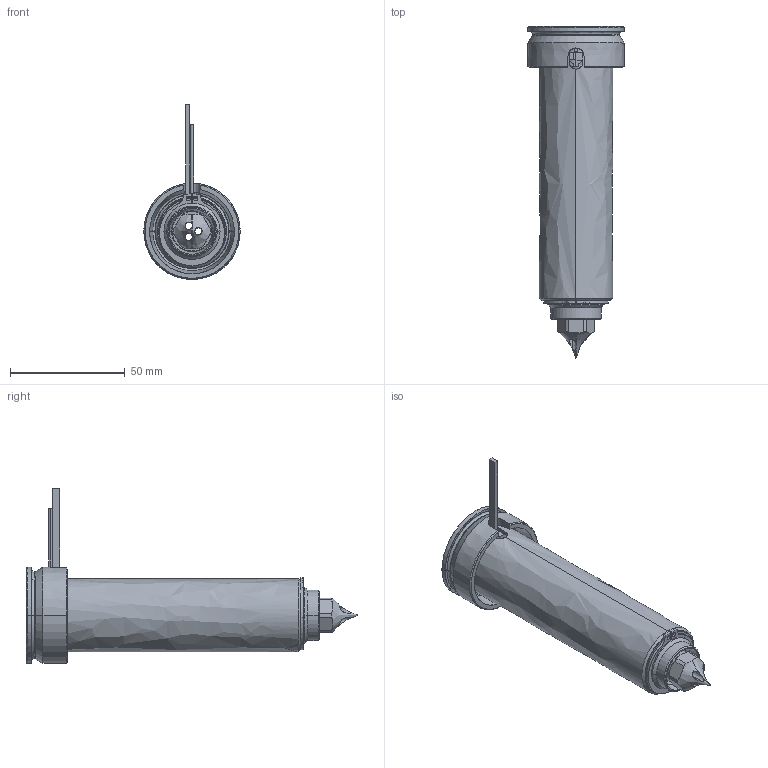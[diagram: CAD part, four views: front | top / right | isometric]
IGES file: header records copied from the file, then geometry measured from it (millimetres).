
Start section: SolidWorks IGES file using analytic representation for surfaces
Global section: file name: C:\Users\luca.EMPAD\Desktop\TEM\UGDL3614-M-A-1 [Øf=0.3 ØC=10].IGS; native system: SolidWorks 2012; preprocessor: SolidWorks 2012; author: luca; date: 120330.160432; units: millimetre
Bounding box: 42 x 144.8 x 76.3 mm (x, y, z)
Surface area: 46637.5 mm2 (no closed solid volume)
Topology: 0 solids, 0 shells, 125 faces, 2198 edges, 2198 vertices
Faces by surface type: revolution 79, bspline 46
